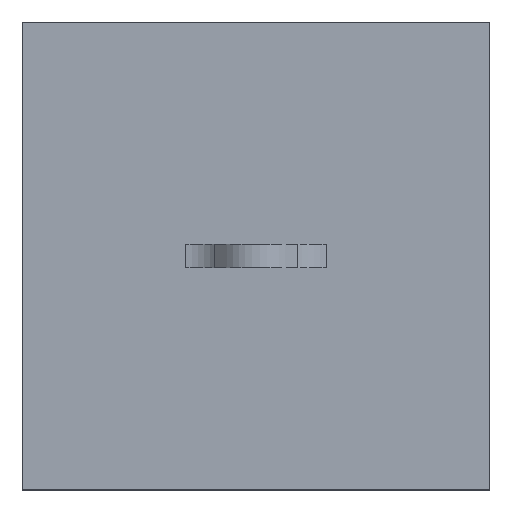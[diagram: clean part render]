
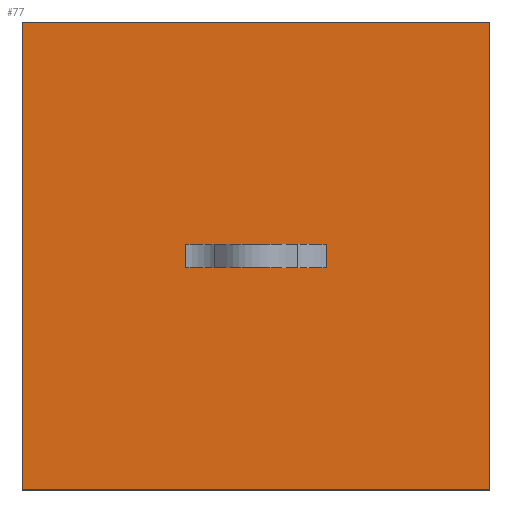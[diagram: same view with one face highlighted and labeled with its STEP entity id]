
A CAD part, top view. The second image highlights one B-rep face of the part: STEP entity #77.
In plain terms, the highlighted planar face has unit normal (0, 0, 1).
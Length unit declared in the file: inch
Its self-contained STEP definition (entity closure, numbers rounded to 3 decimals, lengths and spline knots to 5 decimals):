
#77=ADVANCED_FACE('',(#100,#101),#102,.T.);
#100=FACE_BOUND('',#142,.T.);
#101=FACE_OUTER_BOUND('',#143,.T.);
#102=PLANE('',#144);
#142=EDGE_LOOP('',(#194,#195,#196,#197));
#143=EDGE_LOOP('',(#198,#199,#200,#201));
#144=AXIS2_PLACEMENT_3D('',#202,#203,#204);
#194=ORIENTED_EDGE('',*,*,#351,.F.);
#195=ORIENTED_EDGE('',*,*,#352,.F.);
#196=ORIENTED_EDGE('',*,*,#353,.T.);
#197=ORIENTED_EDGE('',*,*,#354,.T.);
#198=ORIENTED_EDGE('',*,*,#345,.T.);
#199=ORIENTED_EDGE('',*,*,#355,.T.);
#200=ORIENTED_EDGE('',*,*,#356,.T.);
#201=ORIENTED_EDGE('',*,*,#348,.T.);
#202=CARTESIAN_POINT('',(-17.11842,0.0,-0.36172));
#203=DIRECTION('',(0.,0.,1.0));
#204=DIRECTION('',(1.0,0.0,0.));
#345=EDGE_CURVE('',#399,#396,#400,.T.);
#348=EDGE_CURVE('',#404,#399,#405,.T.);
#351=EDGE_CURVE('',#409,#410,#411,.T.);
#352=EDGE_CURVE('',#412,#409,#413,.T.);
#353=EDGE_CURVE('',#412,#414,#415,.T.);
#354=EDGE_CURVE('',#414,#410,#416,.T.);
#355=EDGE_CURVE('',#396,#417,#418,.T.);
#356=EDGE_CURVE('',#417,#404,#419,.T.);
#396=VERTEX_POINT('',#480);
#399=VERTEX_POINT('',#484);
#400=LINE('',#485,#486);
#404=VERTEX_POINT('',#492);
#405=LINE('',#493,#494);
#409=VERTEX_POINT('',#500);
#410=VERTEX_POINT('',#501);
#411=LINE('',#502,#503);
#412=VERTEX_POINT('',#504);
#413=LINE('',#505,#506);
#414=VERTEX_POINT('',#507);
#415=LINE('',#508,#509);
#416=LINE('',#510,#511);
#417=VERTEX_POINT('',#512);
#418=LINE('',#513,#514);
#419=LINE('',#515,#516);
#480=CARTESIAN_POINT('',(-2.36842,0.625,-0.36172));
#484=CARTESIAN_POINT('',(-0.36842,0.625,-0.36172));
#485=CARTESIAN_POINT('',(23281.89144,0.625,-0.36172));
#486=VECTOR('',#605,1.0);
#492=CARTESIAN_POINT('',(-0.36842,-1.375,-0.36172));
#493=CARTESIAN_POINT('',(-0.36842,31965.58058,-0.36172));
#494=VECTOR('',#608,1.0);
#500=CARTESIAN_POINT('',(-1.66842,-0.325,-0.36172));
#501=CARTESIAN_POINT('',(-1.66842,-0.425,-0.36172));
#502=CARTESIAN_POINT('',(-1.66842,-0.325,-0.36172));
#503=VECTOR('',#611,0.1);
#504=CARTESIAN_POINT('',(-1.06842,-0.325,-0.36172));
#505=CARTESIAN_POINT('',(-1.06842,-0.325,-0.36172));
#506=VECTOR('',#612,0.6);
#507=CARTESIAN_POINT('',(-1.06842,-0.425,-0.36172));
#508=CARTESIAN_POINT('',(-1.06842,-0.325,-0.36172));
#509=VECTOR('',#613,0.1);
#510=CARTESIAN_POINT('',(-1.06842,-0.425,-0.36172));
#511=VECTOR('',#614,0.6);
#512=CARTESIAN_POINT('',(-2.36842,-1.375,-0.36172));
#513=CARTESIAN_POINT('',(-2.36842,46808.69222,-0.36172));
#514=VECTOR('',#615,1.0);
#515=CARTESIAN_POINT('',(124414.71564,-1.375,-0.36172));
#516=VECTOR('',#616,1.0);
#605=DIRECTION('',(-1.0,0.0,0.));
#608=DIRECTION('',(0.0,1.0,0.));
#611=DIRECTION('',(0.,-1.0,0.));
#612=DIRECTION('',(-1.0,0.,0.));
#613=DIRECTION('',(0.,-1.0,0.));
#614=DIRECTION('',(-1.0,0.,0.));
#615=DIRECTION('',(0.0,-1.0,0.));
#616=DIRECTION('',(1.0,0.0,0.));
